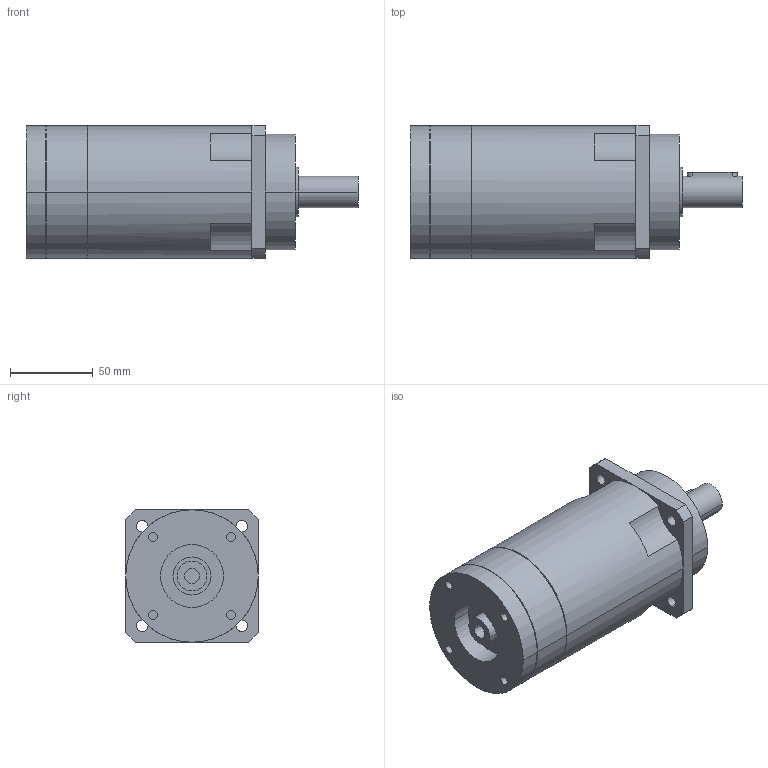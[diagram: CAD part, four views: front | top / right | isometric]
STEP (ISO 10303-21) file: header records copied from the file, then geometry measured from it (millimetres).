
FILE_DESCRIPTION(('CoCreate Modeling STEP Export'),'2;1');
FILE_NAME('GPR100_ig-48-64-80-100-120-144-180-216_19_B5_9_P01.stp','2014-08-26T13:05:02',(''),(''),'CoCreate Modeling STEP processor for AP214 (Solid Model)','CoCreate Modeling 16.00C 25-Feb-2009 (C) Parametric Technology GmbH','');
FILE_SCHEMA(('AUTOMOTIVE_DESIGN { 1 0 10303 214 1 1 1 1 }'));
Length unit declared in the file: millimetre
Products named in the file (2): GPR100_ig-48-64-80-100-120-144-180-216_19_B5_9_P01
Assembly tree (1 placements, depth 2):
  GPR100_ig-48-64-80-100-120-144-180-216_19_B5_9_P01
    GPR100_ig-48-64-80-100-120-144-180-216_19_B5_9_P01
Bounding box: 200.4 x 80 x 80 mm (x, y, z)
Volume: 792534.5 mm3; surface area: 61634.3 mm2
Topology: 1 solids, 1 shells, 96 faces, 250 edges, 172 vertices
Faces by surface type: cylinder 56, plane 34, cone 6
Entity records: 2609 total; most frequent: ORIENTED_EDGE 496, CARTESIAN_POINT 468, DIRECTION 376, EDGE_CURVE 248, VERTEX_POINT 172, AXIS2_PLACEMENT_3D 144, EDGE_LOOP 122, FACE_OUTER_BOUND 96
